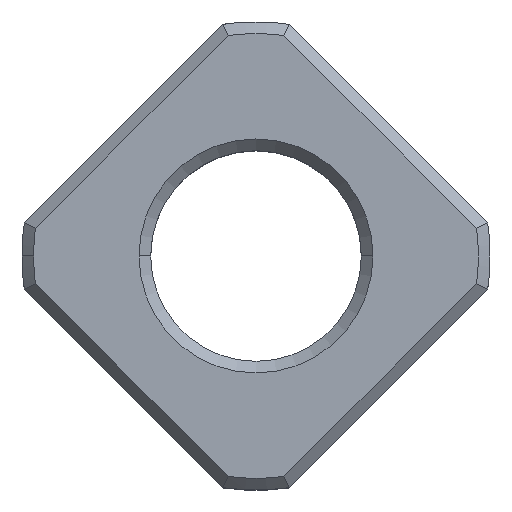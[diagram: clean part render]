
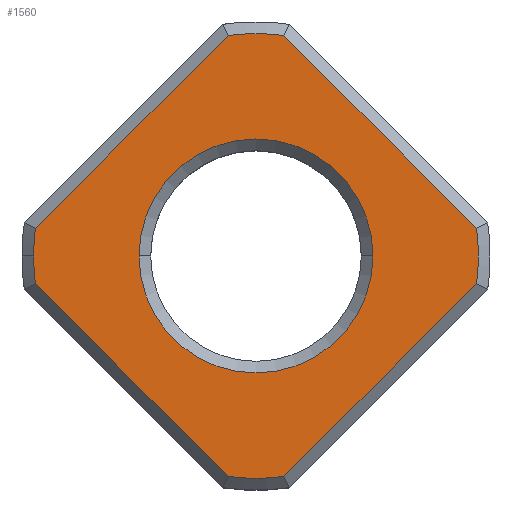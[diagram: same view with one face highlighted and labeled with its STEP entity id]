
A CAD part, top view. The second image highlights one B-rep face of the part: STEP entity #1560.
In plain terms, the highlighted planar face has unit normal (0, 0, 1).
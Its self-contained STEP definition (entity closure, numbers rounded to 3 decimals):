
#53 = CIRCLE ( 'NONE', #86, 9.5 ) ;
#75 = CARTESIAN_POINT ( 'NONE',  ( 9.426, -1.18, 0. ) ) ;
#76 = LINE ( 'NONE', #100, #191 ) ;
#83 = DIRECTION ( 'NONE',  ( 1., 0., 0. ) ) ;
#84 = DIRECTION ( 'NONE',  ( 0., 0., 1. ) ) ;
#85 = CARTESIAN_POINT ( 'NONE',  ( 0., 0., 0. ) ) ;
#86 = AXIS2_PLACEMENT_3D ( 'NONE', #85, #84, #83 ) ;
#96 = CARTESIAN_POINT ( 'NONE',  ( 0., 0., 0. ) ) ;
#100 = CARTESIAN_POINT ( 'NONE',  ( -0.354, 10.96, 0. ) ) ;
#101 = CARTESIAN_POINT ( 'NONE',  ( 9.426, 1.18, 0. ) ) ;
#102 = DIRECTION ( 'NONE',  ( 1., 0., 0. ) ) ;
#106 = CIRCLE ( 'NONE', #187, 9.5 ) ;
#108 = DIRECTION ( 'NONE',  ( 1., 0., 0. ) ) ;
#109 = DIRECTION ( 'NONE',  ( 0., 0., -1. ) ) ;
#110 = CARTESIAN_POINT ( 'NONE',  ( 0., 0., 0. ) ) ;
#111 = AXIS2_PLACEMENT_3D ( 'NONE', #110, #109, #108 ) ;
#112 = CIRCLE ( 'NONE', #111, 5. ) ;
#131 = CARTESIAN_POINT ( 'NONE',  ( 1.18, 9.426, 0. ) ) ;
#186 = DIRECTION ( 'NONE',  ( 0., 0., 1. ) ) ;
#187 = AXIS2_PLACEMENT_3D ( 'NONE', #96, #186, #102 ) ;
#188 = CARTESIAN_POINT ( 'NONE',  ( 1.18, -9.426, 0. ) ) ;
#190 = DIRECTION ( 'NONE',  ( -0.707, 0.707, 0. ) ) ;
#191 = VECTOR ( 'NONE', #190, 1000. ) ;
#469 = CARTESIAN_POINT ( 'NONE',  ( -5., 0., 0. ) ) ;
#496 = LINE ( 'NONE', #499, #502 ) ;
#499 = CARTESIAN_POINT ( 'NONE',  ( 0.354, 10.96, 0. ) ) ;
#501 = DIRECTION ( 'NONE',  ( -0.707, -0.707, 0. ) ) ;
#502 = VECTOR ( 'NONE', #501, 1000. ) ;
#661 = LINE ( 'NONE', #675, #674 ) ;
#673 = DIRECTION ( 'NONE',  ( 0.707, -0.707, 0. ) ) ;
#674 = VECTOR ( 'NONE', #673, 1000. ) ;
#675 = CARTESIAN_POINT ( 'NONE',  ( -10.96, 0.354, 0. ) ) ;
#676 = CARTESIAN_POINT ( 'NONE',  ( -1.18, -9.426, 0. ) ) ;
#677 = CARTESIAN_POINT ( 'NONE',  ( -1.18, 9.426, 0. ) ) ;
#678 = DIRECTION ( 'NONE',  ( 1., 0., 0. ) ) ;
#679 = DIRECTION ( 'NONE',  ( 0., 0., 1. ) ) ;
#680 = CARTESIAN_POINT ( 'NONE',  ( 0., 0., 0. ) ) ;
#681 = AXIS2_PLACEMENT_3D ( 'NONE', #680, #679, #678 ) ;
#682 = CIRCLE ( 'NONE', #681, 9.5 ) ;
#683 = DIRECTION ( 'NONE',  ( 0., 0., 1. ) ) ;
#684 = CARTESIAN_POINT ( 'NONE',  ( 0., 0., 0. ) ) ;
#685 = AXIS2_PLACEMENT_3D ( 'NONE', #684, #683, #692 ) ;
#686 = CIRCLE ( 'NONE', #685, 9.5 ) ;
#687 = FACE_BOUND ( 'NONE', #1561, .T. ) ;
#688 = AXIS2_PLACEMENT_3D ( 'NONE', #695, #694, #693 ) ;
#689 = PLANE ( 'NONE',  #688 ) ;
#690 = LINE ( 'NONE', #698, #697 ) ;
#691 = FACE_OUTER_BOUND ( 'NONE', #1668, .T. ) ;
#692 = DIRECTION ( 'NONE',  ( 1., 0., 0. ) ) ;
#693 = DIRECTION ( 'NONE',  ( 1., 0., 0. ) ) ;
#694 = DIRECTION ( 'NONE',  ( 0., 0., 1. ) ) ;
#695 = CARTESIAN_POINT ( 'NONE',  ( 0., 11.314, 0. ) ) ;
#696 = DIRECTION ( 'NONE',  ( 0.707, 0.707, 0. ) ) ;
#697 = VECTOR ( 'NONE', #696, 1000. ) ;
#698 = CARTESIAN_POINT ( 'NONE',  ( 10.96, 0.354, 0. ) ) ;
#726 = CARTESIAN_POINT ( 'NONE',  ( -9.426, 1.18, 0. ) ) ;
#1133 = CIRCLE ( 'NONE', #1170, 5. ) ;
#1167 = DIRECTION ( 'NONE',  ( 1., 0., 0. ) ) ;
#1168 = DIRECTION ( 'NONE',  ( 0., 0., -1. ) ) ;
#1169 = CARTESIAN_POINT ( 'NONE',  ( 0., 0., 0. ) ) ;
#1170 = AXIS2_PLACEMENT_3D ( 'NONE', #1169, #1168, #1167 ) ;
#1198 = EDGE_CURVE ( 'NONE', #1199, #1200, #1916, .T. ) ;
#1199 = VERTEX_POINT ( 'NONE', #1912 ) ;
#1200 = VERTEX_POINT ( 'NONE', #1911 ) ;
#1342 = VERTEX_POINT ( 'NONE', #2148 ) ;
#1423 = EDGE_CURVE ( 'NONE', #1342, #1454, #1133, .T. ) ;
#1454 = VERTEX_POINT ( 'NONE', #469 ) ;
#1546 = ORIENTED_EDGE ( 'NONE', *, *, #1198, .T. ) ;
#1547 = ORIENTED_EDGE ( 'NONE', *, *, #1548, .T. ) ;
#1548 = EDGE_CURVE ( 'NONE', #1200, #1549, #661, .T. ) ;
#1549 = VERTEX_POINT ( 'NONE', #676 ) ;
#1552 = EDGE_CURVE ( 'NONE', #1658, #1553, #682, .T. ) ;
#1553 = VERTEX_POINT ( 'NONE', #677 ) ;
#1554 = ORIENTED_EDGE ( 'NONE', *, *, #1555, .T. ) ;
#1555 = EDGE_CURVE ( 'NONE', #1553, #1556, #496, .T. ) ;
#1556 = VERTEX_POINT ( 'NONE', #726 ) ;
#1557 = ORIENTED_EDGE ( 'NONE', *, *, #1558, .T. ) ;
#1558 = EDGE_CURVE ( 'NONE', #1556, #1199, #686, .T. ) ;
#1560 = ADVANCED_FACE ( 'NONE', ( #687, #691 ), #689, .T. ) ;
#1561 = EDGE_LOOP ( 'NONE', ( #1562, #1666 ) ) ;
#1562 = ORIENTED_EDGE ( 'NONE', *, *, #1423, .T. ) ;
#1563 = EDGE_CURVE ( 'NONE', #1651, #1652, #690, .T. ) ;
#1577 = ORIENTED_EDGE ( 'NONE', *, *, #1697, .T. ) ;
#1651 = VERTEX_POINT ( 'NONE', #188 ) ;
#1652 = VERTEX_POINT ( 'NONE', #75 ) ;
#1653 = ORIENTED_EDGE ( 'NONE', *, *, #1654, .T. ) ;
#1654 = EDGE_CURVE ( 'NONE', #1652, #1655, #106, .T. ) ;
#1655 = VERTEX_POINT ( 'NONE', #101 ) ;
#1656 = ORIENTED_EDGE ( 'NONE', *, *, #1657, .T. ) ;
#1657 = EDGE_CURVE ( 'NONE', #1655, #1658, #76, .T. ) ;
#1658 = VERTEX_POINT ( 'NONE', #131 ) ;
#1659 = ORIENTED_EDGE ( 'NONE', *, *, #1552, .T. ) ;
#1666 = ORIENTED_EDGE ( 'NONE', *, *, #1667, .T. ) ;
#1667 = EDGE_CURVE ( 'NONE', #1454, #1342, #112, .T. ) ;
#1668 = EDGE_LOOP ( 'NONE', ( #1669, #1653, #1656, #1659, #1554, #1557, #1546, #1547, #1577 ) ) ;
#1669 = ORIENTED_EDGE ( 'NONE', *, *, #1563, .T. ) ;
#1697 = EDGE_CURVE ( 'NONE', #1549, #1651, #53, .T. ) ;
#1877 = CARTESIAN_POINT ( 'NONE',  ( 0., 0., 0. ) ) ;
#1911 = CARTESIAN_POINT ( 'NONE',  ( -9.426, -1.18, 0. ) ) ;
#1912 = CARTESIAN_POINT ( 'NONE',  ( -9.5, 0., 0. ) ) ;
#1913 = DIRECTION ( 'NONE',  ( 1., 0., 0. ) ) ;
#1914 = DIRECTION ( 'NONE',  ( 0., 0., 1. ) ) ;
#1915 = AXIS2_PLACEMENT_3D ( 'NONE', #1877, #1914, #1913 ) ;
#1916 = CIRCLE ( 'NONE', #1915, 9.5 ) ;
#2148 = CARTESIAN_POINT ( 'NONE',  ( 5., 0., 0. ) ) ;
